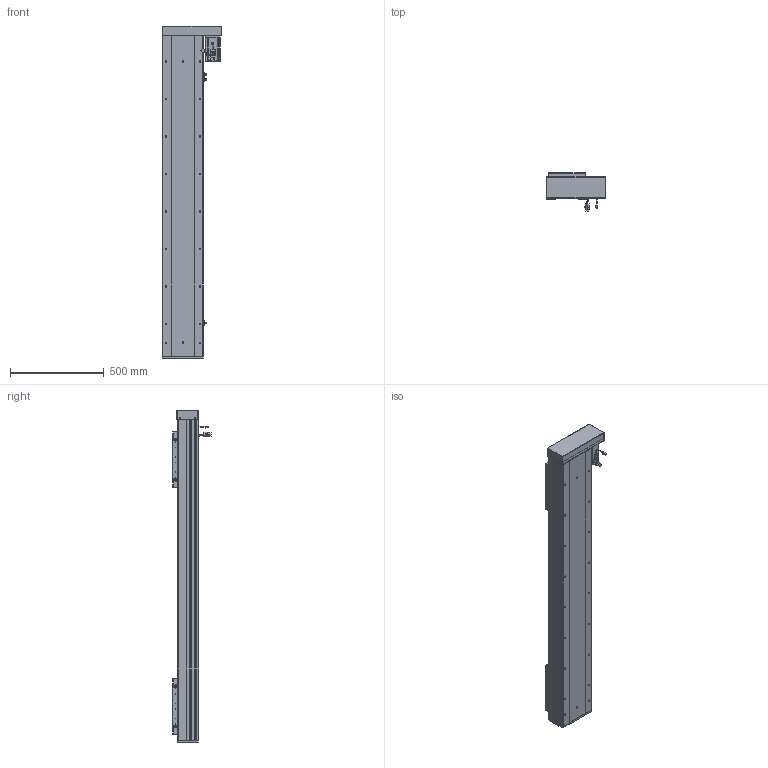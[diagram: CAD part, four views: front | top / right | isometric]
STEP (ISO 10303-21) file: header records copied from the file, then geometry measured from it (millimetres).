
FILE_DESCRIPTION (( 'STEP AP203' ), '1' );
FILE_NAME ('RY220F-L2525-300-RK.SLDASM_1300.step', '2022-07-04T01:35:36', ( '' ), ( '' ), 'SwSTEP 2.0', 'SolidWorks 2016', '' );
FILE_SCHEMA (( 'CONFIG_CONTROL_DESIGN' ));
Length unit declared in the file: millimetre
Products named in the file (15): 怢湛750W_ECMA-CX0807ES; 覜茼ん672; RY220F-滅鳥奻裔; RY220F綴裔啣; 侐源滅袉蝶; RY220F蛌殏菁釱-300_1300; RY220F-蛌殏奻裔啣-300_1300; 滅袉蝶18-24; RY220酘衵殏萇儂欶; RY220F-L2525-300-RK.SLDASM_1300; RY220F-詩湍揤踡輸; RY220F-祥凄詩湍-蛌殏-300_1300; RY220左右折电机安装板; RY220F臏賑釱25-32佪裝; RY220F-672覜茼んえ
Assembly tree (24 placements, depth 2):
  RY220F-L2525-300-RK.SLDASM_1300
    RY220F蛌殏菁釱-300_1300
    RY220F-蛌殏奻裔啣-300_1300  x2
    怢湛750W_ECMA-CX0807ES
    RY220F臏賑釱25-32佪裝  x2
    RY220F-滅鳥奻裔  x2
    滅袉蝶18-24  x3
    RY220F綴裔啣
    RY220F-祥凄詩湍-蛌殏-300_1300
    RY220F-詩湍揤踡輸  x2
    覜茼ん672  x3
    RY220F-672覜茼んえ  x2
    RY220左右折电机安装板
    RY220酘衵殏萇儂欶
    侐源滅袉蝶  x2
Bounding box: 317.5 x 205.27 x 1771 mm (x, y, z)
Volume: 16433831.5 mm3; surface area: 4322741 mm2
Topology: 25 solids, 25 shells, 2776 faces, 7552 edges, 4674 vertices
Faces by surface type: cylinder 1254, plane 1044, cone 407, bspline 45, sphere 16, torus 10
Entity records: 68940 total; most frequent: CARTESIAN_POINT 18687, ORIENTED_EDGE 10150, DIRECTION 9880, EDGE_CURVE 5075, AXIS2_PLACEMENT_3D 3518, VERTEX_POINT 3290, VECTOR 2844, LINE 2844
